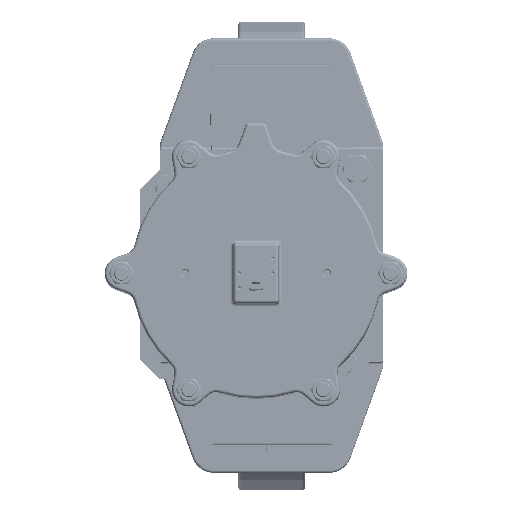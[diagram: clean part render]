
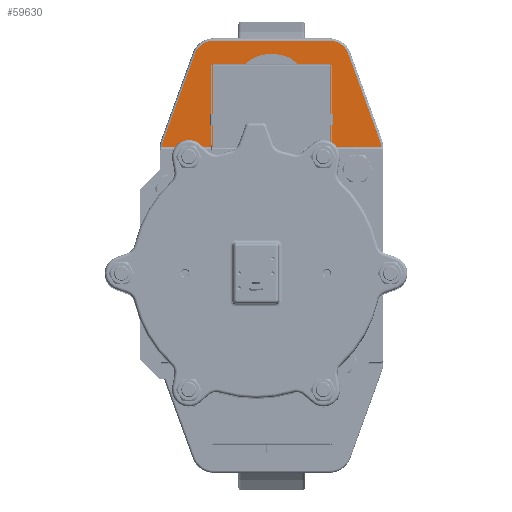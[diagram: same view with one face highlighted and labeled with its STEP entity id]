
A CAD part, top view. The second image highlights one B-rep face of the part: STEP entity #59630.
In plain terms, the highlighted planar face has unit normal (0, 0, 1).
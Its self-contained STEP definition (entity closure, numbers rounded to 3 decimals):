
#3106=FACE_BOUND('',#17142,.T.);
#3107=FACE_BOUND('',#17143,.T.);
#5142=LINE('',#113858,#8382);
#5145=LINE('',#113870,#8385);
#5192=LINE('',#117968,#8432);
#5194=LINE('',#117980,#8434);
#5365=LINE('',#140662,#8605);
#5366=LINE('',#140666,#8606);
#5367=LINE('',#140669,#8607);
#5368=LINE('',#140671,#8608);
#8382=VECTOR('',#77858,1.);
#8385=VECTOR('',#77869,1.);
#8432=VECTOR('',#78110,1.);
#8434=VECTOR('',#78124,1.);
#8605=VECTOR('',#79079,1.);
#8606=VECTOR('',#79082,1.);
#8607=VECTOR('',#79085,1.);
#8608=VECTOR('',#79086,1.);
#13080=FACE_OUTER_BOUND('',#17141,.T.);
#17141=EDGE_LOOP('',(#47610,#47611,#47612,#47613,#47614,#47615,#47616,#47617,
#47618,#47619,#47620,#47621,#47622,#47623));
#17142=EDGE_LOOP('',(#47624));
#17143=EDGE_LOOP('',(#47625));
#20331=CIRCLE('',#63738,6.);
#20341=CIRCLE('',#63759,6.);
#21067=CIRCLE('',#65002,27.);
#21138=CIRCLE('',#65107,27.);
#21343=CIRCLE('',#65495,14.);
#21344=CIRCLE('',#65496,14.);
#21345=CIRCLE('',#65497,27.);
#21346=CIRCLE('',#65498,27.);
#25208=VERTEX_POINT('',#94552);
#25230=VERTEX_POINT('',#94640);
#26345=VERTEX_POINT('',#113855);
#26346=VERTEX_POINT('',#113857);
#26348=VERTEX_POINT('',#113863);
#26351=VERTEX_POINT('',#113868);
#26354=VERTEX_POINT('',#113938);
#26359=VERTEX_POINT('',#114018);
#26468=VERTEX_POINT('',#117966);
#26472=VERTEX_POINT('',#117978);
#26474=VERTEX_POINT('',#117985);
#26834=VERTEX_POINT('',#140661);
#26835=VERTEX_POINT('',#140663);
#26836=VERTEX_POINT('',#140665);
#26837=VERTEX_POINT('',#140667);
#26838=VERTEX_POINT('',#140670);
#31877=EDGE_CURVE('',#25208,#25208,#20331,.T.);
#31908=EDGE_CURVE('',#25230,#25230,#20341,.T.);
#33452=EDGE_CURVE('',#26346,#26345,#5142,.T.);
#33458=EDGE_CURVE('',#26348,#26351,#5145,.T.);
#33460=EDGE_CURVE('',#26351,#26346,#21067,.T.);
#33610=EDGE_CURVE('',#26468,#26359,#5192,.T.);
#33616=EDGE_CURVE('',#26354,#26472,#5194,.T.);
#33620=EDGE_CURVE('',#26359,#26474,#21138,.T.);
#34246=EDGE_CURVE('',#26834,#26472,#5365,.T.);
#34247=EDGE_CURVE('',#26835,#26834,#21343,.F.);
#34248=EDGE_CURVE('',#26836,#26835,#5366,.T.);
#34249=EDGE_CURVE('',#26837,#26836,#21344,.F.);
#34250=EDGE_CURVE('',#26468,#26837,#5367,.T.);
#34251=EDGE_CURVE('',#26474,#26838,#5368,.T.);
#34252=EDGE_CURVE('',#26838,#26348,#21345,.T.);
#34253=EDGE_CURVE('',#26345,#26354,#21346,.T.);
#47610=ORIENTED_EDGE('',*,*,#34246,.F.);
#47611=ORIENTED_EDGE('',*,*,#34247,.F.);
#47612=ORIENTED_EDGE('',*,*,#34248,.F.);
#47613=ORIENTED_EDGE('',*,*,#34249,.F.);
#47614=ORIENTED_EDGE('',*,*,#34250,.F.);
#47615=ORIENTED_EDGE('',*,*,#33610,.T.);
#47616=ORIENTED_EDGE('',*,*,#33620,.T.);
#47617=ORIENTED_EDGE('',*,*,#34251,.T.);
#47618=ORIENTED_EDGE('',*,*,#34252,.T.);
#47619=ORIENTED_EDGE('',*,*,#33458,.T.);
#47620=ORIENTED_EDGE('',*,*,#33460,.T.);
#47621=ORIENTED_EDGE('',*,*,#33452,.T.);
#47622=ORIENTED_EDGE('',*,*,#34253,.T.);
#47623=ORIENTED_EDGE('',*,*,#33616,.T.);
#47624=ORIENTED_EDGE('',*,*,#31908,.T.);
#47625=ORIENTED_EDGE('',*,*,#31877,.T.);
#57312=PLANE('',#65494);
#59630=ADVANCED_FACE('',(#13080,#3106,#3107),#57312,.F.);
#63738=AXIS2_PLACEMENT_3D('',#94554,#74781,#74782);
#63759=AXIS2_PLACEMENT_3D('',#94642,#74832,#74833);
#65002=AXIS2_PLACEMENT_3D('',#113873,#77874,#77875);
#65107=AXIS2_PLACEMENT_3D('',#117987,#78133,#78134);
#65494=AXIS2_PLACEMENT_3D('',#140660,#79077,#79078);
#65495=AXIS2_PLACEMENT_3D('',#140664,#79080,#79081);
#65496=AXIS2_PLACEMENT_3D('',#140668,#79083,#79084);
#65497=AXIS2_PLACEMENT_3D('',#140672,#79087,#79088);
#65498=AXIS2_PLACEMENT_3D('',#140673,#79089,#79090);
#74781=DIRECTION('center_axis',(0.,0.,-1.));
#74782=DIRECTION('ref_axis',(-1.,0.,0.));
#74832=DIRECTION('center_axis',(0.,0.,-1.));
#74833=DIRECTION('ref_axis',(-1.,0.,0.));
#77858=DIRECTION('',(-0.342,-0.94,0.));
#77869=DIRECTION('',(-1.,0.,0.));
#77874=DIRECTION('center_axis',(0.,0.,1.));
#77875=DIRECTION('ref_axis',(1.,0.,0.));
#78110=DIRECTION('',(1.,0.,0.));
#78124=DIRECTION('',(1.,0.,0.));
#78133=DIRECTION('center_axis',(0.,0.,1.));
#78134=DIRECTION('ref_axis',(1.,0.,0.));
#79077=DIRECTION('center_axis',(0.,0.,-1.));
#79078=DIRECTION('ref_axis',(-1.,0.,0.));
#79079=DIRECTION('',(0.,-1.,0.));
#79080=DIRECTION('center_axis',(0.,0.,-1.));
#79081=DIRECTION('ref_axis',(1.,0.,0.));
#79082=DIRECTION('',(-1.,0.,0.));
#79083=DIRECTION('center_axis',(0.,0.,-1.));
#79084=DIRECTION('ref_axis',(1.,0.,0.));
#79085=DIRECTION('',(0.,1.,0.));
#79086=DIRECTION('',(-0.342,0.94,0.));
#79087=DIRECTION('center_axis',(0.,0.,1.));
#79088=DIRECTION('ref_axis',(1.,0.,0.));
#79089=DIRECTION('center_axis',(0.,0.,1.));
#79090=DIRECTION('ref_axis',(1.,0.,0.));
#94552=CARTESIAN_POINT('',(35.,225.,334.));
#94554=CARTESIAN_POINT('Origin',(29.,225.,334.));
#94640=CARTESIAN_POINT('',(-23.,225.,334.));
#94642=CARTESIAN_POINT('Origin',(-29.,225.,334.));
#113855=CARTESIAN_POINT('',(-145.372,153.945,334.));
#113857=CARTESIAN_POINT('',(-102.864,270.735,334.));
#113858=CARTESIAN_POINT('',(-145.372,153.945,334.));
#113863=CARTESIAN_POINT('',(77.492,288.5,334.));
#113868=CARTESIAN_POINT('',(-77.492,288.5,334.));
#113870=CARTESIAN_POINT('',(-22.5,288.5,334.));
#113873=CARTESIAN_POINT('Origin',(-77.492,261.5,334.));
#113938=CARTESIAN_POINT('',(-146.988,145.5,334.));
#114018=CARTESIAN_POINT('',(146.988,145.5,334.));
#117966=CARTESIAN_POINT('',(17.,145.5,334.));
#117968=CARTESIAN_POINT('',(150.,145.5,334.));
#117978=CARTESIAN_POINT('',(-17.,145.5,334.));
#117980=CARTESIAN_POINT('',(-13.,145.5,334.));
#117985=CARTESIAN_POINT('',(145.372,153.945,334.));
#117987=CARTESIAN_POINT('Origin',(120.,144.71,334.));
#140660=CARTESIAN_POINT('Origin',(-22.5,-259.5,334.));
#140661=CARTESIAN_POINT('',(-17.,241.,334.));
#140662=CARTESIAN_POINT('',(-17.,-259.5,334.));
#140663=CARTESIAN_POINT('',(-3.,255.,334.));
#140664=CARTESIAN_POINT('Origin',(-3.,241.,334.));
#140665=CARTESIAN_POINT('',(3.,255.,334.));
#140666=CARTESIAN_POINT('',(-22.5,255.,334.));
#140667=CARTESIAN_POINT('',(17.,241.,334.));
#140668=CARTESIAN_POINT('Origin',(3.,241.,334.));
#140669=CARTESIAN_POINT('',(17.,-259.5,334.));
#140670=CARTESIAN_POINT('',(102.864,270.735,334.));
#140671=CARTESIAN_POINT('',(102.864,270.735,334.));
#140672=CARTESIAN_POINT('Origin',(77.492,261.5,334.));
#140673=CARTESIAN_POINT('Origin',(-120.,144.71,334.));
